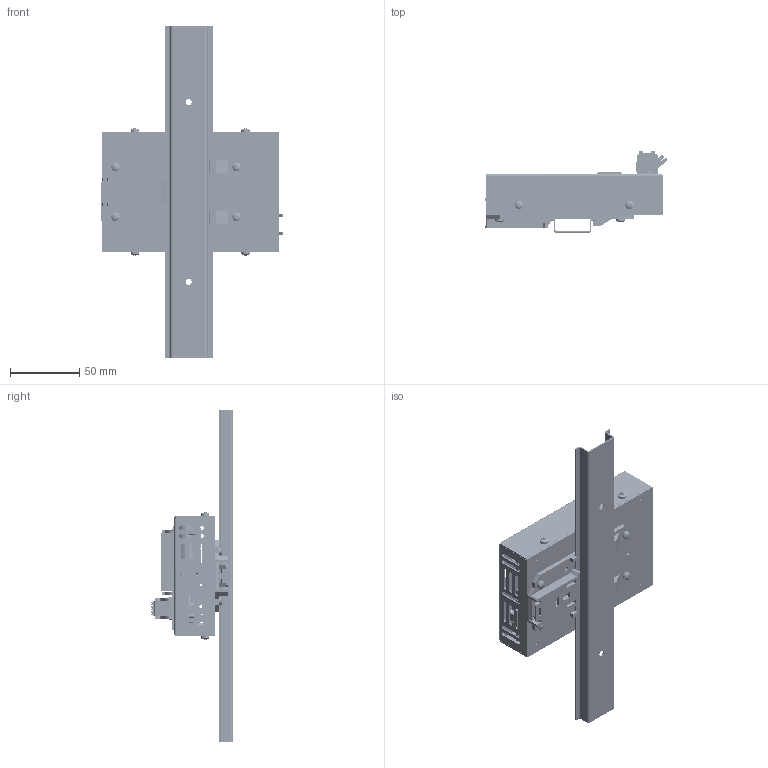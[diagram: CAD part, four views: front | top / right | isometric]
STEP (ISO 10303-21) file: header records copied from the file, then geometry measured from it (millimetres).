
FILE_DESCRIPTION (( 'STEP AP214' ), '1' );
FILE_NAME ('DC2007_LP_in_Hutschienengehäuse_Stand09022015.STEP', '2015-02-09T12:09:05', ( '' ), ( '' ), 'SwSTEP 2.0', 'SolidWorks 2014', '' );
FILE_SCHEMA (( 'AUTOMOTIVE_DESIGN' ));
Length unit declared in the file: millimetre
Products named in the file (1): DC2007_LP_in_Hutschienengehäuse_Stand09022015
Bounding box: 131.83 x 59.07 x 240 mm (x, y, z)
Surface area: 186935.4 mm2 (no closed solid volume)
Topology: 0 solids, 4725 shells, 30461 faces, 63823 edges, 42119 vertices
Faces by surface type: plane 28826, cylinder 1036, bspline 392, cone 187, sphere 16, torus 4
Entity records: 1171146 total; most frequent: CARTESIAN_POINT 146146, ORIENTED_EDGE 125994, DIRECTION 125294, EDGE_CURVE 63055, LINE 59612, VECTOR 59612, VERTEX_POINT 42119, UNCERTAINTY_MEASURE_WITH_UNIT 35130
